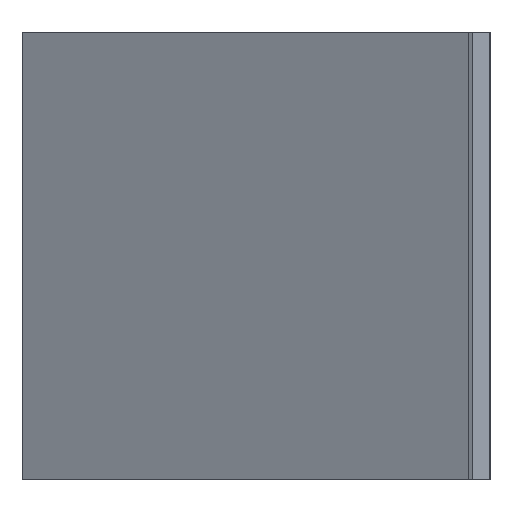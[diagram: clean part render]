
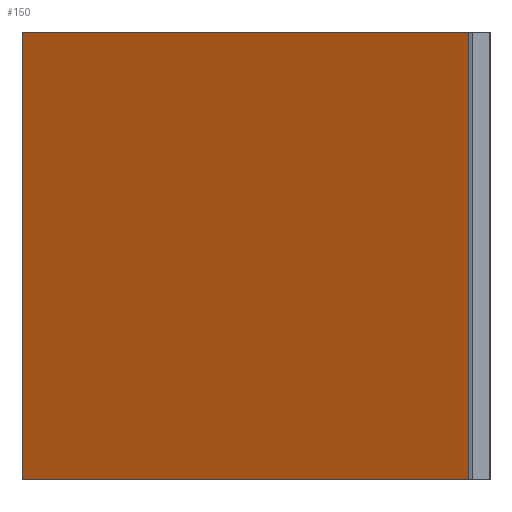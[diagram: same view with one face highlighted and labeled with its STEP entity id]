
A CAD part, left-side view. The second image highlights one B-rep face of the part: STEP entity #150.
In plain terms, the highlighted planar face has unit normal (0.886, -0.464, 0).
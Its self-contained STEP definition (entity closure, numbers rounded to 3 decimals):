
#98=CARTESIAN_POINT('Vertex',(20.,0.,0.)) ;
#101=CARTESIAN_POINT('Line Origine',(20.,0.,52.5)) ;
#105=CARTESIAN_POINT('Vertex',(20.,0.,105.)) ;
#120=CARTESIAN_POINT('Axis2P3D Location',(20.,0.,0.)) ;
#125=CARTESIAN_POINT('Line Origine',(47.5,52.5,0.)) ;
#129=CARTESIAN_POINT('Vertex',(75.,105.,0.)) ;
#132=CARTESIAN_POINT('Line Origine',(75.,105.,52.5)) ;
#136=CARTESIAN_POINT('Vertex',(75.,105.,105.)) ;
#139=CARTESIAN_POINT('Line Origine',(47.5,52.5,105.)) ;
#102=DIRECTION('Vector Direction',(0.,0.,1.)) ;
#121=DIRECTION('Axis2P3D Direction',(0.886,-0.464,0.)) ;
#122=DIRECTION('Axis2P3D XDirection',(0.464,0.886,0.)) ;
#126=DIRECTION('Vector Direction',(0.464,0.886,0.)) ;
#133=DIRECTION('Vector Direction',(0.,0.,1.)) ;
#140=DIRECTION('Vector Direction',(0.464,0.886,0.)) ;
#123=AXIS2_PLACEMENT_3D('Plane Axis2P3D',#120,#121,#122) ;
#145=ORIENTED_EDGE('',*,*,#107,.F.) ;
#146=ORIENTED_EDGE('',*,*,#131,.T.) ;
#147=ORIENTED_EDGE('',*,*,#138,.T.) ;
#148=ORIENTED_EDGE('',*,*,#143,.F.) ;
#103=VECTOR('Line Direction',#102,1.) ;
#127=VECTOR('Line Direction',#126,1.) ;
#134=VECTOR('Line Direction',#133,1.) ;
#141=VECTOR('Line Direction',#140,1.) ;
#150=ADVANCED_FACE('Extrude.1',(#149),#124,.T.) ;
#107=EDGE_CURVE('',#99,#106,#104,.T.) ;
#131=EDGE_CURVE('',#99,#130,#128,.T.) ;
#138=EDGE_CURVE('',#130,#137,#135,.T.) ;
#143=EDGE_CURVE('',#106,#137,#142,.T.) ;
#144=EDGE_LOOP('',(#145,#146,#147,#148)) ;
#149=FACE_OUTER_BOUND('',#144,.T.) ;
#104=LINE('Line',#101,#103) ;
#128=LINE('Line',#125,#127) ;
#135=LINE('Line',#132,#134) ;
#142=LINE('Line',#139,#141) ;
#124=PLANE('',#123) ;
#99=VERTEX_POINT('',#98) ;
#106=VERTEX_POINT('',#105) ;
#130=VERTEX_POINT('',#129) ;
#137=VERTEX_POINT('',#136) ;
